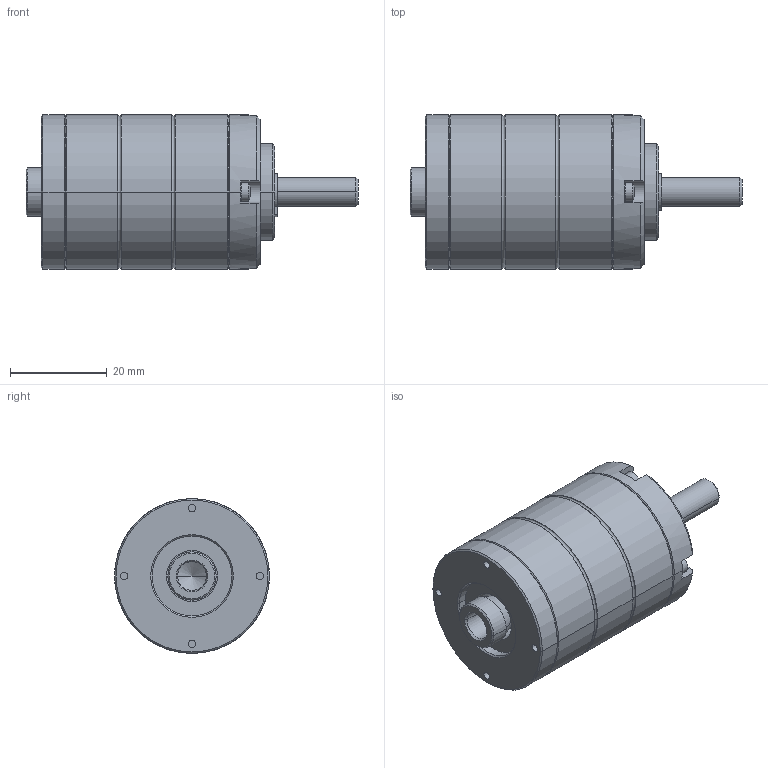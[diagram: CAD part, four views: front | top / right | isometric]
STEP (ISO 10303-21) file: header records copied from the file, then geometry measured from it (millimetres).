
FILE_DESCRIPTION((''),'2;1');
FILE_NAME('IMS32_PRO_3_STAGE_ASM','2024-09-02T13:25:22',('mhummel'),(''),'CREO PARAMETRIC BY PTC INC, 2020184','CREO PARAMETRIC BY PTC INC, 2020184','');
FILE_SCHEMA(('AUTOMOTIVE_DESIGN { 1 0 10303 214 1 1 1 1 }'));
Length unit declared in the file: millimetre
Products named in the file (14): IMS32_PRO_BEARING_FLANGE; IMS32_PRO_BALL_BEARING; IMS32_PRO_RETAINING_RING_J; IMS32_PRO_RING_GEAR_3_STAGE; IMS32_PRO_MOTOR_FLANGE; IMS32_PRO_SHIM_RING; IMS32_PRO_SHAFT_RAW_AF0; IMS32_PRO_SHAFT_ASM; IMS32_PRO_RETAINING_RING_A; IMS32_PRO_THRUST_WASHER_1_STAGE; IMS32_PRO_SCREW_3_STAGE; IMS32_PRO_PINION_LONG; IMS32_PRO_PINION_SHORT; IMS32_PRO_3_STAGE_ASM
Assembly tree (17 placements, depth 3):
  IMS32_PRO_3_STAGE_ASM
    IMS32_PRO_BEARING_FLANGE
    IMS32_PRO_BALL_BEARING  x2
    IMS32_PRO_RETAINING_RING_J
    IMS32_PRO_RING_GEAR_3_STAGE
    IMS32_PRO_MOTOR_FLANGE
    IMS32_PRO_SHIM_RING
    IMS32_PRO_SHAFT_ASM
      IMS32_PRO_SHAFT_RAW_AF0
    IMS32_PRO_RETAINING_RING_A
    IMS32_PRO_THRUST_WASHER_1_STAGE
    IMS32_PRO_SCREW_3_STAGE  x4
    IMS32_PRO_PINION_LONG
    IMS32_PRO_PINION_SHORT
Bounding box: 68.65 x 32 x 32 mm (x, y, z)
Volume: 24987.1 mm3; surface area: 19940 mm2
Topology: 20 solids, 22 shells, 492 faces, 1072 edges, 637 vertices
Faces by surface type: cylinder 208, cone 112, plane 102, torus 62, sphere 8
Entity records: 13016 total; most frequent: DIRECTION 1874, CARTESIAN_POINT 1602, ORIENTED_EDGE 1444, AXIS2_PLACEMENT_3D 798, PRESENTATION_STYLE_ASSIGNMENT 798, STYLED_ITEM 748, CURVE_STYLE 722, EDGE_CURVE 722
